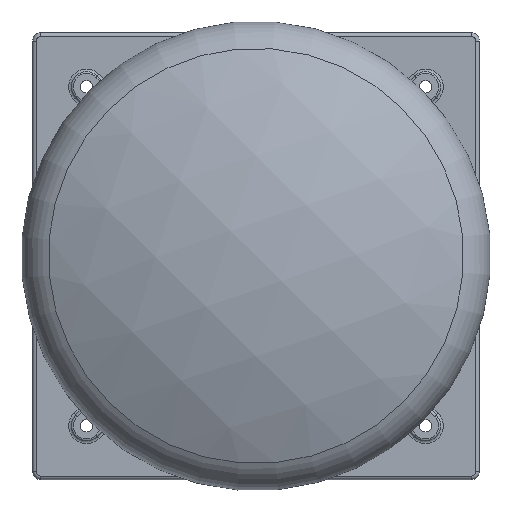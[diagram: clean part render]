
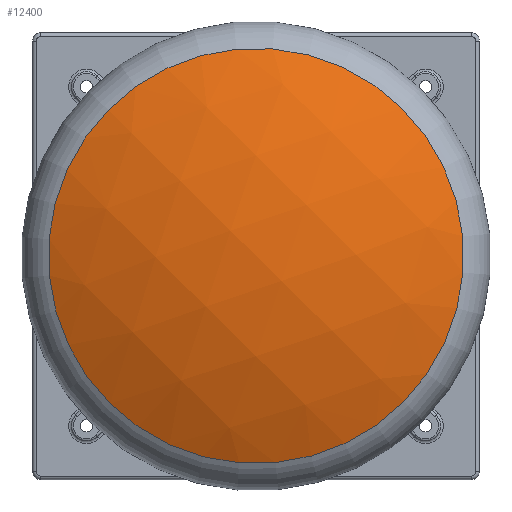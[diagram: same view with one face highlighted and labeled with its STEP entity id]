
A CAD part, top view. The second image highlights one B-rep face of the part: STEP entity #12400.
In plain terms, the highlighted spherical face has radius 458.5 mm.
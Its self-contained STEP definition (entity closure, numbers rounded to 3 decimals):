
#82=SPHERICAL_SURFACE('',#12981,458.5);
#3209=FACE_OUTER_BOUND('',#3962,.T.);
#3962=EDGE_LOOP('',(#10351));
#4473=CIRCLE('',#12980,202.106);
#5615=VERTEX_POINT('',#27283);
#7238=EDGE_CURVE('',#5615,#5615,#4473,.T.);
#10351=ORIENTED_EDGE('',*,*,#7238,.T.);
#12400=ADVANCED_FACE('',(#3209),#82,.T.);
#12980=AXIS2_PLACEMENT_3D('',#27284,#14527,#14528);
#12981=AXIS2_PLACEMENT_3D('',#27285,#14529,#14530);
#14527=DIRECTION('center_axis',(0.,0.,
1.));
#14528=DIRECTION('ref_axis',(-0.712,0.702,0.));
#14529=DIRECTION('center_axis',(-0.702,-0.712,0.));
#14530=DIRECTION('ref_axis',(0.712,-0.702,0.));
#27283=CARTESIAN_POINT('',(-143.896,141.917,185.753));
#27284=CARTESIAN_POINT('Origin',(0.,0.,
185.753));
#27285=CARTESIAN_POINT('Origin',(0.,0.,
-225.8));
